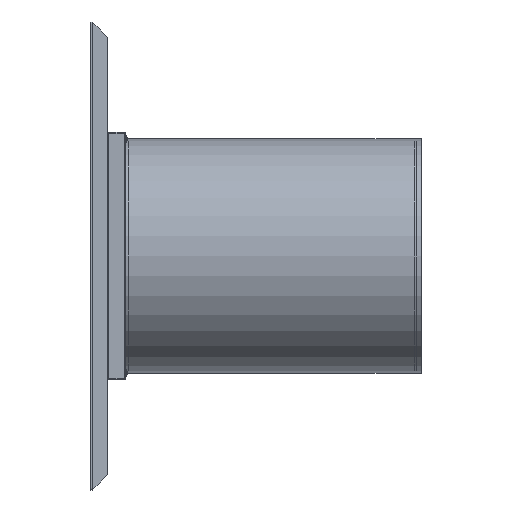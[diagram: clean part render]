
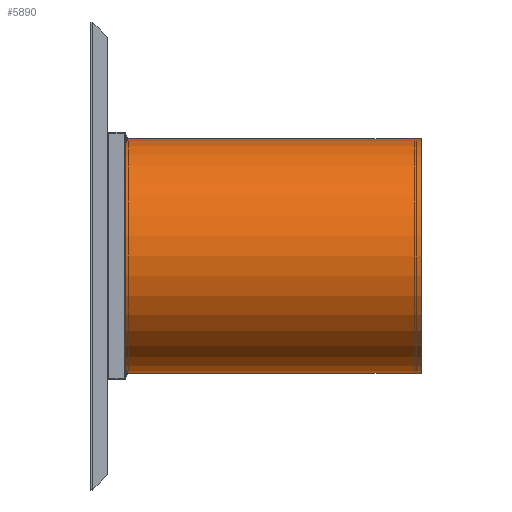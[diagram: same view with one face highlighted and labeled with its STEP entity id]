
A CAD part, left-side view. The second image highlights one B-rep face of the part: STEP entity #5890.
In plain terms, the highlighted cylindrical face has radius 265 mm (diameter 530 mm), a partial arc.
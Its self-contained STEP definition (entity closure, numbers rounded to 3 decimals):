
#268 = DIRECTION ( 'NONE',  ( 0., -1., 0. ) ) ;
#452 = DIRECTION ( 'NONE',  ( 0., 1., 0. ) ) ;
#706 = EDGE_CURVE ( 'NONE', #12056, #2159, #4302, .T. ) ;
#1356 = EDGE_LOOP ( 'NONE', ( #2947, #1759, #12545, #7132 ) ) ;
#1728 = AXIS2_PLACEMENT_3D ( 'NONE', #13278, #11598, #5392 ) ;
#1759 = ORIENTED_EDGE ( 'NONE', *, *, #706, .F. ) ;
#2159 = VERTEX_POINT ( 'NONE', #11604 ) ;
#2798 = LINE ( 'NONE', #15547, #15348 ) ;
#2947 = ORIENTED_EDGE ( 'NONE', *, *, #10652, .F. ) ;
#4302 = CIRCLE ( 'NONE', #7241, 265. ) ;
#4870 = VERTEX_POINT ( 'NONE', #12124 ) ;
#5310 = CYLINDRICAL_SURFACE ( 'NONE', #1728, 265. ) ;
#5392 = DIRECTION ( 'NONE',  ( 0., 0., -1. ) ) ;
#5471 = EDGE_CURVE ( 'NONE', #9870, #4870, #6004, .T. ) ;
#5890 = ADVANCED_FACE ( 'NONE', ( #8153 ), #5310, .T. ) ;
#6004 = CIRCLE ( 'NONE', #6534, 265. ) ;
#6534 = AXIS2_PLACEMENT_3D ( 'NONE', #6914, #452, #14480 ) ;
#6914 = CARTESIAN_POINT ( 'NONE',  ( 0., 0., 0. ) ) ;
#7132 = ORIENTED_EDGE ( 'NONE', *, *, #5471, .T. ) ;
#7241 = AXIS2_PLACEMENT_3D ( 'NONE', #10827, #9556, #9721 ) ;
#8153 = FACE_OUTER_BOUND ( 'NONE', #1356, .T. ) ;
#8167 = LINE ( 'NONE', #14645, #14733 ) ;
#8471 = CARTESIAN_POINT ( 'NONE',  ( 0., 0., -265. ) ) ;
#9556 = DIRECTION ( 'NONE',  ( 0., 1., 0. ) ) ;
#9721 = DIRECTION ( 'NONE',  ( 0., 0., 1. ) ) ;
#9870 = VERTEX_POINT ( 'NONE', #8471 ) ;
#10652 = EDGE_CURVE ( 'NONE', #2159, #4870, #8167, .T. ) ;
#10827 = CARTESIAN_POINT ( 'NONE',  ( 0., 670., 0. ) ) ;
#11598 = DIRECTION ( 'NONE',  ( 0., -1., 0. ) ) ;
#11604 = CARTESIAN_POINT ( 'NONE',  ( 0., 670., 265. ) ) ;
#12056 = VERTEX_POINT ( 'NONE', #13148 ) ;
#12106 = DIRECTION ( 'NONE',  ( 0., -1., 0. ) ) ;
#12124 = CARTESIAN_POINT ( 'NONE',  ( 0., 0., 265. ) ) ;
#12545 = ORIENTED_EDGE ( 'NONE', *, *, #16465, .T. ) ;
#13148 = CARTESIAN_POINT ( 'NONE',  ( 0., 670., -265. ) ) ;
#13278 = CARTESIAN_POINT ( 'NONE',  ( 0., 670., 0. ) ) ;
#14480 = DIRECTION ( 'NONE',  ( 0., 0., 1. ) ) ;
#14645 = CARTESIAN_POINT ( 'NONE',  ( 0., 670., 265. ) ) ;
#14733 = VECTOR ( 'NONE', #12106, 1000. ) ;
#15348 = VECTOR ( 'NONE', #268, 1000. ) ;
#15547 = CARTESIAN_POINT ( 'NONE',  ( 0., 670., -265. ) ) ;
#16465 = EDGE_CURVE ( 'NONE', #12056, #9870, #2798, .T. ) ;
